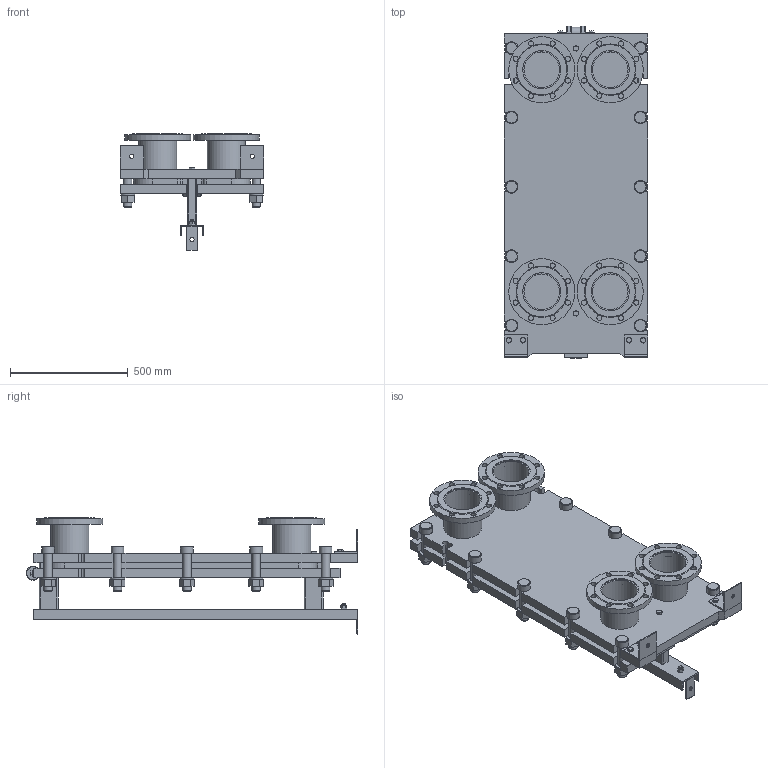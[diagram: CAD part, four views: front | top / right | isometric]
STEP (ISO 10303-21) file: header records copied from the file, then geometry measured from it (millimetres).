
FILE_DESCRIPTION(/* description */ (''),/* implementation_level */ '2;1');
FILE_NAME(/* name */ 'C:\Users\zhuro\Desktop\ENCO\TO\ЭН-041\ЭН-0,5-041-7-1.stp',/* time_stamp */ '2022-06-06T10:48:19+03:00',/* author */ ('zhuro'),/* organization */ (''),/* preprocessor_version */ 'ST-DEVELOPER v18.1',/* originating_system */ 'Autodesk Inventor 2022',/* authorisation */ '');
FILE_SCHEMA (('AUTOMOTIVE_DESIGN { 1 0 10303 214 3 1 1 }'));
Length unit declared in the file: millimetre
Products named in the file (1): ЭН-0,5-041-7-1
Bounding box: 610 x 1406.5 x 492.5 mm (x, y, z)
Volume: 87520664.2 mm3; surface area: 6973937.4 mm2
Topology: 52 solids, 52 shells, 711 faces, 1696 edges, 1094 vertices
Faces by surface type: plane 487, cylinder 177, cone 41, torus 6
Full cylindrical faces by diameter (mm): 8 x4, 10 x2, 16 x8, 18 x3, 22 x32, 36 x24, 50 x1, 54 x10, 60 x12, 151 x4, 161 x8, 280 x4
Entity records: 22667 total; most frequent: CARTESIAN_POINT 5230, DIRECTION 3644, ORIENTED_EDGE 3392, EDGE_CURVE 1696, AXIS2_PLACEMENT_3D 1272, LINE 1100, VECTOR 1100, VERTEX_POINT 1094
